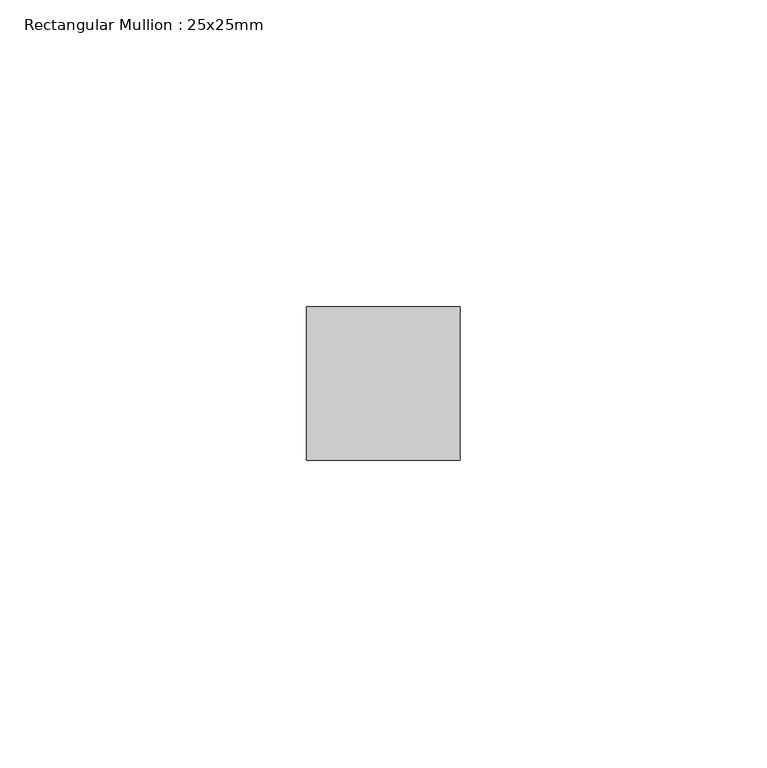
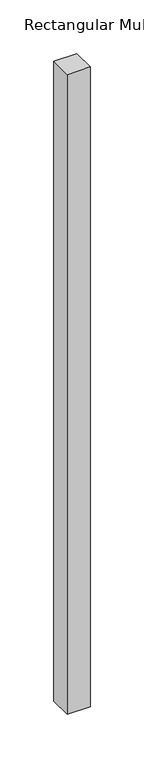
"""IFC4 building model written with IfcOpenShell, lengths in millimetres: member geometry, Rectangular Mullion : 25x25mm."""

import ifcopenshell
import ifcopenshell.guid

model = None  # the IFC model being written
_history = None  # IfcOwnerHistory: only IFC2X3 demands one
_inside = {}  # id of a spatial element -> (the spatial element, [elements in it])
_under = {}  # id of a project, library or spatial element -> (it, [spatial elements below it])
_declared = {}  # id of a project -> (the project, [libraries it declares])
_typed = {}  # id of a type object -> (the type object, [elements of that type])
_made_of = {}  # id of a material, layer set ... -> (it, [elements and type objects made of it])


def new_model(schema):
    """Start an empty IFC model of exactly this schema.

    Asked for "IFC4X3", IfcOpenShell would pick the latest addendum, in which some entities
    have other attributes; the version numbers below select the first issue.
    IFC2X3 requires an IfcOwnerHistory on every rooted entity: one is made here for all.
    """
    global model, _history
    if schema == "IFC4X3":
        model = ifcopenshell.file(schema_version=(4, 3, 0, 0))
    else:
        model = ifcopenshell.file(schema=schema)
    _inside.clear()
    _under.clear()
    _declared.clear()
    _typed.clear()
    _made_of.clear()
    _history = None
    if model.schema == "IFC2X3":
        org = make("IfcOrganization", Name="unknown")
        user = make(
            "IfcPersonAndOrganization",
            ThePerson=make("IfcPerson", FamilyName="unknown"),
            TheOrganization=org,
        )
        app = make(
            "IfcApplication",
            ApplicationDeveloper=org,
            Version="unknown",
            ApplicationFullName="unknown",
            ApplicationIdentifier="unknown",
        )
        _history = make(
            "IfcOwnerHistory",
            OwningUser=user,
            OwningApplication=app,
            ChangeAction="ADDED",
            CreationDate=0,
        )
    return model


def make(cls, **values):
    """One entity of the class cls with the attributes given. An attribute that is None is left unset."""
    return model.create_entity(
        cls, **{name: value for name, value in values.items() if value is not None}
    )


def rooted(cls, **values):
    """An entity with a GlobalId (a new one), such as an element, a storey or a relation."""
    return make(cls, GlobalId=ifcopenshell.guid.new(), OwnerHistory=_history, **values)


def si_unit(unit_type, name, prefix=None):
    """IfcSIUnit, for example si_unit("LENGTHUNIT", "METRE", prefix="MILLI")."""
    return make("IfcSIUnit", UnitType=unit_type, Prefix=prefix, Name=name)


def assignment(units):
    """IfcUnitAssignment: the units of a project."""
    return None if units is None else make("IfcUnitAssignment", Units=units)


def point(xyz):
    """IfcCartesianPoint."""
    return None if xyz is None else make("IfcCartesianPoint", Coordinates=xyz)


def direction(xyz):
    """IfcDirection."""
    return None if xyz is None else make("IfcDirection", DirectionRatios=xyz)


def frame(location, z_axis=None, x_axis=None):
    """IfcAxis2Placement3D, a coordinate frame: its origin and axes. An axis left out is left unset."""
    return make(
        "IfcAxis2Placement3D",
        Location=point(location),
        Axis=direction(z_axis),
        RefDirection=direction(x_axis),
    )


def origin():
    """The frame at (0, 0, 0) with its axes left unset."""
    return frame((0.0, 0.0, 0.0))


def place(relative_to, where):
    """IfcLocalPlacement: puts the frame where relative to a parent placement (None: the world)."""
    return make(
        "IfcLocalPlacement", PlacementRelTo=relative_to, RelativePlacement=where
    )


def context(
    kind, dimensions, precision=None, world=None, true_north=None, identifier=None
):
    """IfcGeometricRepresentationContext, for example the 3D "Model" context."""
    return make(
        "IfcGeometricRepresentationContext",
        ContextIdentifier=identifier,
        ContextType=kind,
        CoordinateSpaceDimension=dimensions,
        Precision=precision,
        WorldCoordinateSystem=world,
        TrueNorth=true_north,
    )


def project(units=None, contexts=None):
    """IfcProject with its units and contexts."""
    return rooted(
        "IfcProject",
        Name="project",
        RepresentationContexts=contexts,
        UnitsInContext=assignment(units),
    )


def spatial(cls, under=None, at=None, **own):
    """A site, building, storey or space (cls), placed at a placement, below another one or the project."""
    s = rooted(cls, ObjectPlacement=at, **own)
    if under is not None:
        _under.setdefault(under.id(), (under, []))[1].append(s)
    return s


def polyline(points):
    """IfcPolyline through the points."""
    return make("IfcPolyline", Points=[point(p) for p in points])


def outline(outer, holes=None, kind="AREA"):
    """IfcArbitraryClosedProfileDef: a profile drawn as a closed curve; with holes, ...WithVoids."""
    if holes is None:
        return make("IfcArbitraryClosedProfileDef", ProfileType=kind, OuterCurve=outer)
    return make(
        "IfcArbitraryProfileDefWithVoids",
        ProfileType=kind,
        OuterCurve=outer,
        InnerCurves=holes,
    )


def extrude(swept, where, along, depth):
    """IfcExtrudedAreaSolid: the profile swept, set in the frame where, extruded along a direction by depth."""
    return make(
        "IfcExtrudedAreaSolid",
        SweptArea=swept,
        Position=where,
        ExtrudedDirection=direction(along),
        Depth=depth,
    )


def shape(context_of_items, identifier, shape_type, items):
    """IfcShapeRepresentation: the items that make up one representation, for example the "Body"."""
    return make(
        "IfcShapeRepresentation",
        ContextOfItems=context_of_items,
        RepresentationIdentifier=identifier,
        RepresentationType=shape_type,
        Items=items,
    )


def source(mapping_origin, context_of_items, identifier, shape_type, items):
    """IfcRepresentationMap: a shape defined once, which mapped items show again and again."""
    return make(
        "IfcRepresentationMap",
        MappingOrigin=mapping_origin,
        MappedRepresentation=shape(context_of_items, identifier, shape_type, items),
    )


def transform(
    local_origin,
    x_axis=None,
    y_axis=None,
    z_axis=None,
    scale=None,
    scale2=None,
    scale3=None,
    uniform=True,
):
    """IfcCartesianTransformationOperator3D, or its non-uniform kind. x_axis, y_axis, z_axis: its Axis1, 2, 3."""
    if uniform:
        return make(
            "IfcCartesianTransformationOperator3D",
            Axis1=direction(x_axis),
            Axis2=direction(y_axis),
            LocalOrigin=point(local_origin),
            Scale=scale,
            Axis3=direction(z_axis),
        )
    return make(
        "IfcCartesianTransformationOperator3DnonUniform",
        Axis1=direction(x_axis),
        Axis2=direction(y_axis),
        LocalOrigin=point(local_origin),
        Scale=scale,
        Axis3=direction(z_axis),
        Scale2=scale2,
        Scale3=scale3,
    )


def mapped(mapping_source, mapping_target):
    """IfcMappedItem: shows the shape of a source again, moved by a transform."""
    return make(
        "IfcMappedItem", MappingSource=mapping_source, MappingTarget=mapping_target
    )


def made_of(thing, what):
    """Note that an element or type object is made of a material, layer set ...; save() writes the relation."""
    if what is not None:
        _made_of.setdefault(what.id(), (what, []))[1].append(thing)
    return thing


def element(
    cls,
    number,
    at=None,
    inside=None,
    cuts=None,
    type_object=None,
    material=None,
    context=None,
    identifier="Body",
    shape_type=None,
    held_by="IfcProductDefinitionShape",
    body=None,
    shapes=None,
    **own,
):
    """One element of the class cls, such as IfcWall. Its Tag is "e" and its number.

    at: its placement. inside: the storey or other place that contains it. cuts: it is an
    opening in that element (IfcRelVoidsElement). A single representation is given by context,
    identifier, shape_type and body (its items); several are given by shapes. held_by: the class
    of the entity that holds the representations. save() writes the other relations.
    """
    e = rooted(cls, Tag="e%d" % number, ObjectPlacement=at, **own)
    if body is not None:
        shapes = [shape(context, identifier, shape_type, body)]
    if shapes is not None:
        e.Representation = make(held_by, Representations=shapes)
    if inside is not None:
        _inside.setdefault(inside.id(), (inside, []))[1].append(e)
    if cuts is not None:
        rooted(
            "IfcRelVoidsElement", RelatingBuildingElement=cuts, RelatedOpeningElement=e
        )
    if type_object is not None:
        _typed.setdefault(type_object.id(), (type_object, []))[1].append(e)
    return made_of(e, material)


def aggregate(whole, parts):
    """IfcRelAggregates: a whole, such as a stair, and the parts it consists of."""
    return rooted("IfcRelAggregates", RelatingObject=whole, RelatedObjects=parts)


def save(model, path):
    """Write the relations noted so far, then the file.

    IfcRelAggregates (storeys below a building ...), IfcRelContainedInSpatialStructure (elements
    in a storey), IfcRelDefinesByType, IfcRelAssociatesMaterial and IfcRelDeclares: one each for
    every whole, place, type object, material and project.
    """
    for whole, parts in _under.values():
        aggregate(whole, parts)
    for where, things in _inside.values():
        rooted(
            "IfcRelContainedInSpatialStructure",
            RelatedElements=things,
            RelatingStructure=where,
        )
    for kind, things in _typed.values():
        rooted("IfcRelDefinesByType", RelatedObjects=things, RelatingType=kind)
    for what, things in _made_of.values():
        rooted("IfcRelAssociatesMaterial", RelatedObjects=things, RelatingMaterial=what)
    for by, libraries in _declared.values():
        rooted("IfcRelDeclares", RelatingContext=by, RelatedDefinitions=libraries)
    model.write(path)


def rectangular_mullion_25x25mm_aa09272d(model_context):
    return source(origin(), model_context, "Body", "SweptSolid", [
        extrude(outline(polyline([(0.0, 24.5), (0.0, -0.5), (-25.0, -0.5), (-25.0, 24.5), (0.0, 24.5)])), frame((0.0, 0.0, -727.5041396), z_axis=(0.0, 0.0, 1.0), x_axis=(1.0, 0.0, 0.0)), (0.0, 0.0, 1.0), 727.5041396),
    ])


if __name__ == "__main__":
    model = new_model("IFC4")
    model_context = context("Model", 3, world=origin())
    ifc_project = project(units=[si_unit("LENGTHUNIT", "METRE", prefix="MILLI")], contexts=[model_context])
    site = spatial("IfcSite", under=ifc_project)
    building = spatial("IfcBuilding", under=site)
    placement = place(None, origin())
    rectangular_mullion_25x25mm_shape = rectangular_mullion_25x25mm_aa09272d(model_context)
    element("IfcMember", 1, ObjectType="Rectangular Mullion : 25x25mm", at=placement, inside=building, context=model_context, shape_type="MappedRepresentation", body=[
        mapped(rectangular_mullion_25x25mm_shape, transform((0.0, 0.0, 0.0), x_axis=(1.0, 0.0, 0.0), y_axis=(0.0, 1.0, 0.0), z_axis=(0.0, 0.0, 1.0))),
    ])
    save(model, "model.ifc")
